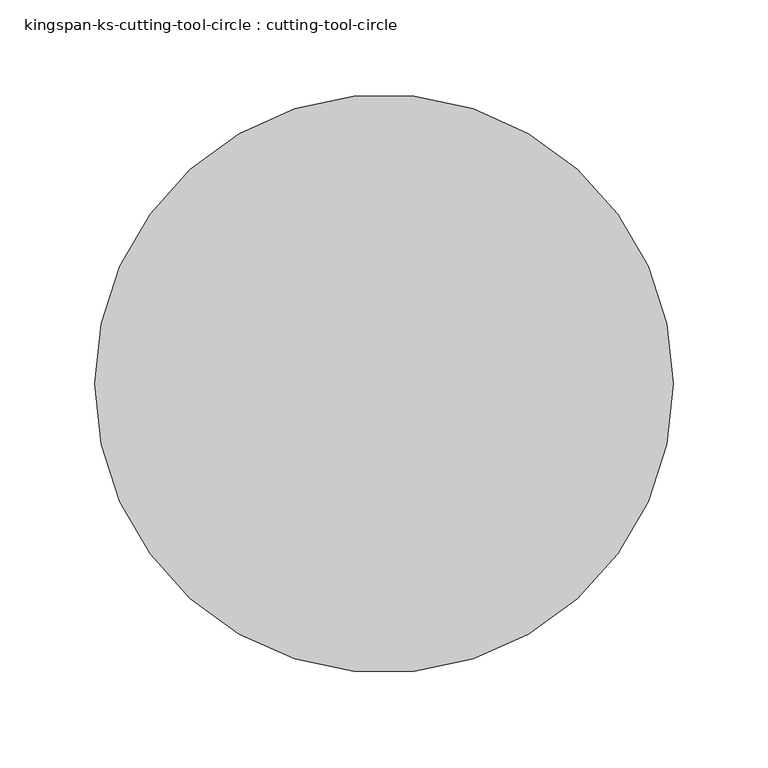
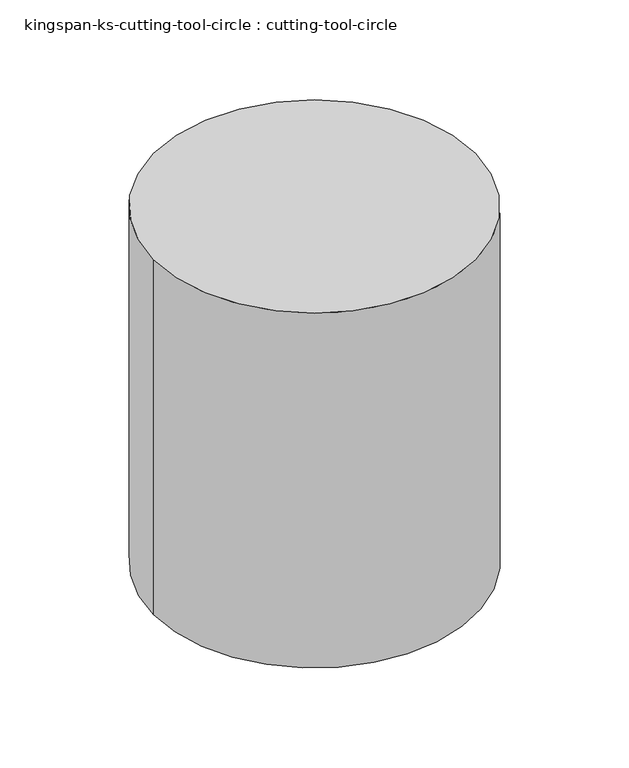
"""IFC4 building model written with IfcOpenShell, lengths in millimetres: proxy geometry, kingspan-ks-cutting-tool-circle : cutting-tool-circle."""

import ifcopenshell
import ifcopenshell.guid

model = None  # the IFC model being written
_history = None  # IfcOwnerHistory: only IFC2X3 demands one
_inside = {}  # id of a spatial element -> (the spatial element, [elements in it])
_under = {}  # id of a project, library or spatial element -> (it, [spatial elements below it])
_declared = {}  # id of a project -> (the project, [libraries it declares])
_typed = {}  # id of a type object -> (the type object, [elements of that type])
_made_of = {}  # id of a material, layer set ... -> (it, [elements and type objects made of it])


def new_model(schema):
    """Start an empty IFC model of exactly this schema.

    Asked for "IFC4X3", IfcOpenShell would pick the latest addendum, in which some entities
    have other attributes; the version numbers below select the first issue.
    IFC2X3 requires an IfcOwnerHistory on every rooted entity: one is made here for all.
    """
    global model, _history
    if schema == "IFC4X3":
        model = ifcopenshell.file(schema_version=(4, 3, 0, 0))
    else:
        model = ifcopenshell.file(schema=schema)
    _inside.clear()
    _under.clear()
    _declared.clear()
    _typed.clear()
    _made_of.clear()
    _history = None
    if model.schema == "IFC2X3":
        org = make("IfcOrganization", Name="unknown")
        user = make(
            "IfcPersonAndOrganization",
            ThePerson=make("IfcPerson", FamilyName="unknown"),
            TheOrganization=org,
        )
        app = make(
            "IfcApplication",
            ApplicationDeveloper=org,
            Version="unknown",
            ApplicationFullName="unknown",
            ApplicationIdentifier="unknown",
        )
        _history = make(
            "IfcOwnerHistory",
            OwningUser=user,
            OwningApplication=app,
            ChangeAction="ADDED",
            CreationDate=0,
        )
    return model


def make(cls, **values):
    """One entity of the class cls with the attributes given. An attribute that is None is left unset."""
    return model.create_entity(
        cls, **{name: value for name, value in values.items() if value is not None}
    )


def rooted(cls, **values):
    """An entity with a GlobalId (a new one), such as an element, a storey or a relation."""
    return make(cls, GlobalId=ifcopenshell.guid.new(), OwnerHistory=_history, **values)


def si_unit(unit_type, name, prefix=None):
    """IfcSIUnit, for example si_unit("LENGTHUNIT", "METRE", prefix="MILLI")."""
    return make("IfcSIUnit", UnitType=unit_type, Prefix=prefix, Name=name)


def assignment(units):
    """IfcUnitAssignment: the units of a project."""
    return None if units is None else make("IfcUnitAssignment", Units=units)


def point(xyz):
    """IfcCartesianPoint."""
    return None if xyz is None else make("IfcCartesianPoint", Coordinates=xyz)


def direction(xyz):
    """IfcDirection."""
    return None if xyz is None else make("IfcDirection", DirectionRatios=xyz)


def frame(location, z_axis=None, x_axis=None):
    """IfcAxis2Placement3D, a coordinate frame: its origin and axes. An axis left out is left unset."""
    return make(
        "IfcAxis2Placement3D",
        Location=point(location),
        Axis=direction(z_axis),
        RefDirection=direction(x_axis),
    )


def frame_2d(location, x_axis=None):
    """IfcAxis2Placement2D, a coordinate frame in the plane: its origin and x axis."""
    return make(
        "IfcAxis2Placement2D", Location=point(location), RefDirection=direction(x_axis)
    )


def origin():
    """The frame at (0, 0, 0) with its axes left unset."""
    return frame((0.0, 0.0, 0.0))


def origin_2d():
    """The frame at (0, 0) in the plane with its x axis left unset."""
    return frame_2d((0.0, 0.0))


def place(relative_to, where):
    """IfcLocalPlacement: puts the frame where relative to a parent placement (None: the world)."""
    return make(
        "IfcLocalPlacement", PlacementRelTo=relative_to, RelativePlacement=where
    )


def context(
    kind, dimensions, precision=None, world=None, true_north=None, identifier=None
):
    """IfcGeometricRepresentationContext, for example the 3D "Model" context."""
    return make(
        "IfcGeometricRepresentationContext",
        ContextIdentifier=identifier,
        ContextType=kind,
        CoordinateSpaceDimension=dimensions,
        Precision=precision,
        WorldCoordinateSystem=world,
        TrueNorth=true_north,
    )


def project(units=None, contexts=None):
    """IfcProject with its units and contexts."""
    return rooted(
        "IfcProject",
        Name="project",
        RepresentationContexts=contexts,
        UnitsInContext=assignment(units),
    )


def spatial(cls, under=None, at=None, **own):
    """A site, building, storey or space (cls), placed at a placement, below another one or the project."""
    s = rooted(cls, ObjectPlacement=at, **own)
    if under is not None:
        _under.setdefault(under.id(), (under, []))[1].append(s)
    return s


def circle_curve(where, radius):
    """IfcCircle in the frame where."""
    return make("IfcCircle", Position=where, Radius=radius)


def trimmed(basis, trim1, trim2, sense, master):
    """IfcTrimmedCurve: the piece of a basis curve between two trims."""
    return make(
        "IfcTrimmedCurve",
        BasisCurve=basis,
        Trim1=trim1,
        Trim2=trim2,
        SenseAgreement=sense,
        MasterRepresentation=master,
    )


def segment(curve, same_sense, transition):
    """IfcCompositeCurveSegment."""
    return make(
        "IfcCompositeCurveSegment",
        Transition=transition,
        SameSense=same_sense,
        ParentCurve=curve,
    )


def composite_curve(segments, self_intersect=None):
    """IfcCompositeCurve: segments joined end to end."""
    return make("IfcCompositeCurve", Segments=segments, SelfIntersect=self_intersect)


def outline(outer, holes=None, kind="AREA"):
    """IfcArbitraryClosedProfileDef: a profile drawn as a closed curve; with holes, ...WithVoids."""
    if holes is None:
        return make("IfcArbitraryClosedProfileDef", ProfileType=kind, OuterCurve=outer)
    return make(
        "IfcArbitraryProfileDefWithVoids",
        ProfileType=kind,
        OuterCurve=outer,
        InnerCurves=holes,
    )


def extrude(swept, where, along, depth):
    """IfcExtrudedAreaSolid: the profile swept, set in the frame where, extruded along a direction by depth."""
    return make(
        "IfcExtrudedAreaSolid",
        SweptArea=swept,
        Position=where,
        ExtrudedDirection=direction(along),
        Depth=depth,
    )


def shape(context_of_items, identifier, shape_type, items):
    """IfcShapeRepresentation: the items that make up one representation, for example the "Body"."""
    return make(
        "IfcShapeRepresentation",
        ContextOfItems=context_of_items,
        RepresentationIdentifier=identifier,
        RepresentationType=shape_type,
        Items=items,
    )


def source(mapping_origin, context_of_items, identifier, shape_type, items):
    """IfcRepresentationMap: a shape defined once, which mapped items show again and again."""
    return make(
        "IfcRepresentationMap",
        MappingOrigin=mapping_origin,
        MappedRepresentation=shape(context_of_items, identifier, shape_type, items),
    )


def transform(
    local_origin,
    x_axis=None,
    y_axis=None,
    z_axis=None,
    scale=None,
    scale2=None,
    scale3=None,
    uniform=True,
):
    """IfcCartesianTransformationOperator3D, or its non-uniform kind. x_axis, y_axis, z_axis: its Axis1, 2, 3."""
    if uniform:
        return make(
            "IfcCartesianTransformationOperator3D",
            Axis1=direction(x_axis),
            Axis2=direction(y_axis),
            LocalOrigin=point(local_origin),
            Scale=scale,
            Axis3=direction(z_axis),
        )
    return make(
        "IfcCartesianTransformationOperator3DnonUniform",
        Axis1=direction(x_axis),
        Axis2=direction(y_axis),
        LocalOrigin=point(local_origin),
        Scale=scale,
        Axis3=direction(z_axis),
        Scale2=scale2,
        Scale3=scale3,
    )


def mapped(mapping_source, mapping_target):
    """IfcMappedItem: shows the shape of a source again, moved by a transform."""
    return make(
        "IfcMappedItem", MappingSource=mapping_source, MappingTarget=mapping_target
    )


def made_of(thing, what):
    """Note that an element or type object is made of a material, layer set ...; save() writes the relation."""
    if what is not None:
        _made_of.setdefault(what.id(), (what, []))[1].append(thing)
    return thing


def element(
    cls,
    number,
    at=None,
    inside=None,
    cuts=None,
    type_object=None,
    material=None,
    context=None,
    identifier="Body",
    shape_type=None,
    held_by="IfcProductDefinitionShape",
    body=None,
    shapes=None,
    **own,
):
    """One element of the class cls, such as IfcWall. Its Tag is "e" and its number.

    at: its placement. inside: the storey or other place that contains it. cuts: it is an
    opening in that element (IfcRelVoidsElement). A single representation is given by context,
    identifier, shape_type and body (its items); several are given by shapes. held_by: the class
    of the entity that holds the representations. save() writes the other relations.
    """
    e = rooted(cls, Tag="e%d" % number, ObjectPlacement=at, **own)
    if body is not None:
        shapes = [shape(context, identifier, shape_type, body)]
    if shapes is not None:
        e.Representation = make(held_by, Representations=shapes)
    if inside is not None:
        _inside.setdefault(inside.id(), (inside, []))[1].append(e)
    if cuts is not None:
        rooted(
            "IfcRelVoidsElement", RelatingBuildingElement=cuts, RelatedOpeningElement=e
        )
    if type_object is not None:
        _typed.setdefault(type_object.id(), (type_object, []))[1].append(e)
    return made_of(e, material)


def aggregate(whole, parts):
    """IfcRelAggregates: a whole, such as a stair, and the parts it consists of."""
    return rooted("IfcRelAggregates", RelatingObject=whole, RelatedObjects=parts)


def save(model, path):
    """Write the relations noted so far, then the file.

    IfcRelAggregates (storeys below a building ...), IfcRelContainedInSpatialStructure (elements
    in a storey), IfcRelDefinesByType, IfcRelAssociatesMaterial and IfcRelDeclares: one each for
    every whole, place, type object, material and project.
    """
    for whole, parts in _under.values():
        aggregate(whole, parts)
    for where, things in _inside.values():
        rooted(
            "IfcRelContainedInSpatialStructure",
            RelatedElements=things,
            RelatingStructure=where,
        )
    for kind, things in _typed.values():
        rooted("IfcRelDefinesByType", RelatedObjects=things, RelatingType=kind)
    for what, things in _made_of.values():
        rooted("IfcRelAssociatesMaterial", RelatedObjects=things, RelatingMaterial=what)
    for by, libraries in _declared.values():
        rooted("IfcRelDeclares", RelatingContext=by, RelatedDefinitions=libraries)
    model.write(path)


def kingspan_ks_cutting_tool_circle_cutting_tool_circle_f6fe257a(model_context):
    return source(origin(), model_context, "Body", "SweptSolid", [
        extrude(outline(composite_curve([segment(trimmed(circle_curve(origin_2d(), 152.4), [point((-152.4, 0.0))], [point((152.4, 0.0))], False, "CARTESIAN"), True, "CONTINUOUS"), segment(trimmed(circle_curve(origin_2d(), 152.4), [point((152.4, 0.0))], [point((-152.4, 0.0))], False, "CARTESIAN"), True, "CONTINUOUS")], self_intersect=False)), frame((0.0, 0.0, -254.0), z_axis=(0.0, 0.0, 1.0), x_axis=(1.0, 0.0, 0.0)), (0.0, 0.0, 1.0), 355.6),
    ])


if __name__ == "__main__":
    model = new_model("IFC4")
    model_context = context("Model", 3, world=origin())
    ifc_project = project(units=[si_unit("LENGTHUNIT", "METRE", prefix="MILLI")], contexts=[model_context])
    site = spatial("IfcSite", under=ifc_project)
    building = spatial("IfcBuilding", under=site)
    placement = place(None, origin())
    kingspan_ks_cutting_tool_circle_cutting_tool_circle_shape = kingspan_ks_cutting_tool_circle_cutting_tool_circle_f6fe257a(model_context)
    element("IfcBuildingElementProxy", 1, Name="kingspan-ks-cutting-tool-circle : cutting-tool-circle", ObjectType="kingspan-ks-cutting-tool-circle : cutting-tool-circle", at=placement, inside=building, context=model_context, shape_type="MappedRepresentation", body=[
        mapped(kingspan_ks_cutting_tool_circle_cutting_tool_circle_shape, transform((0.0, 0.0, 0.0), x_axis=(1.0, 0.0, 0.0), y_axis=(0.0, 1.0, 0.0), z_axis=(0.0, 0.0, 1.0))),
    ])
    save(model, "model.ifc")
